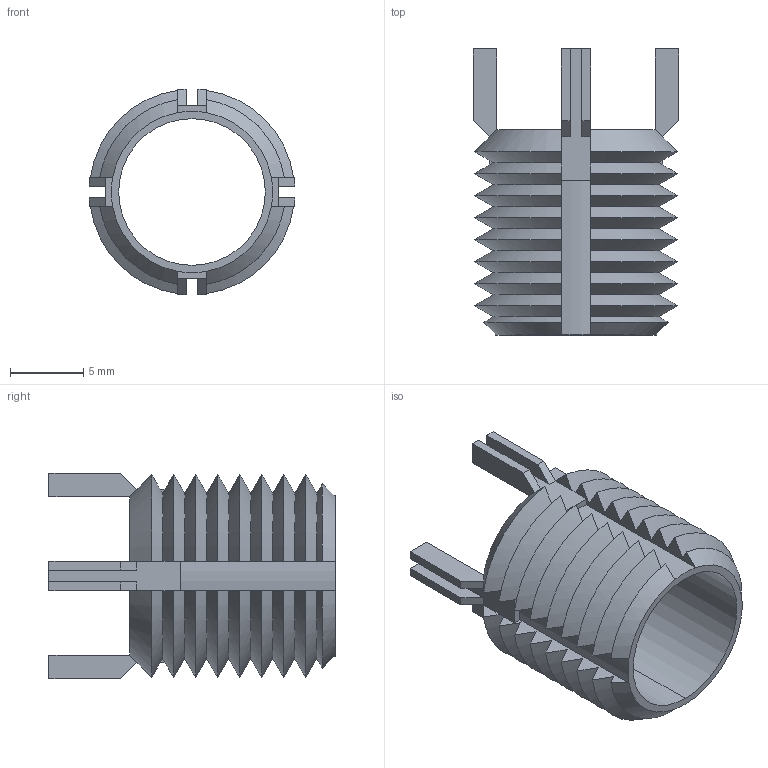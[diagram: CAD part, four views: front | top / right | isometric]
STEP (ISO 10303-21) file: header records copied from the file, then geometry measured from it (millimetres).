
FILE_DESCRIPTION (( 'STEP AP203' ), '1' );
FILE_NAME ('TR1520.65955.step', '2023-03-31T08:48:30', ( '' ), ( '' ), 'SwSTEP 2.0', 'SolidWorks 2019', '' );
FILE_SCHEMA (( 'CONFIG_CONTROL_DESIGN' ));
Length unit declared in the file: millimetre
Products named in the file (1): TR1520.65955
Bounding box: 14.02 x 19.5 x 14.02 mm (x, y, z)
Volume: 628.1 mm3; surface area: 1728 mm2
Topology: 1 solids, 1 shells, 152 faces, 410 edges, 260 vertices
Faces by surface type: plane 74, cone 72, cylinder 6
Entity records: 4987 total; most frequent: CARTESIAN_POINT 1363, ORIENTED_EDGE 820, DIRECTION 636, EDGE_CURVE 410, VERTEX_POINT 260, AXIS2_PLACEMENT_3D 241, B_SPLINE_CURVE_WITH_KNOTS 168, LINE 154
